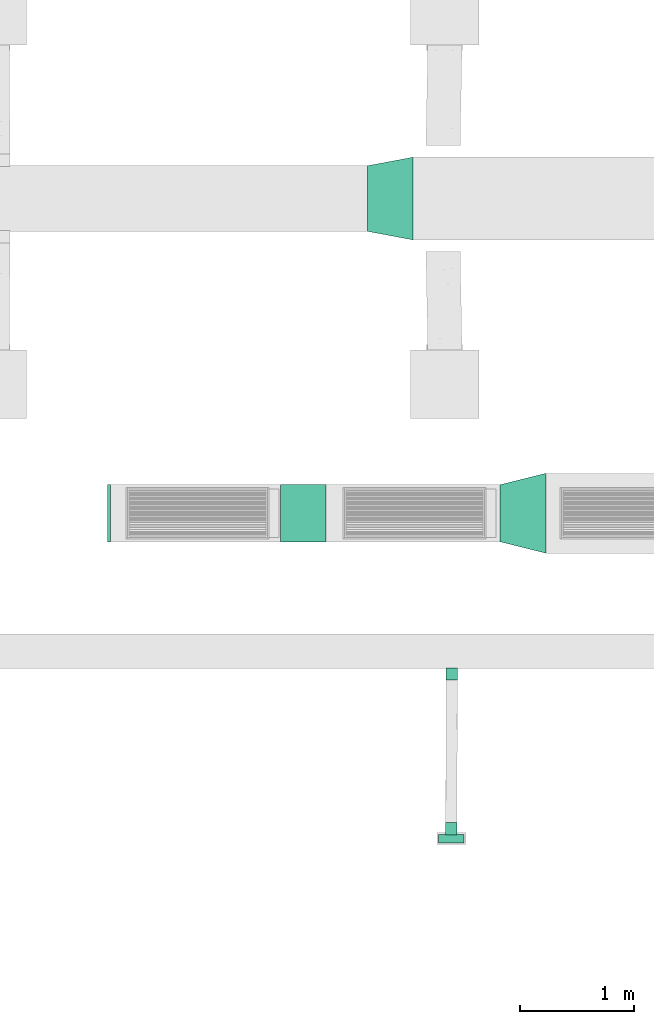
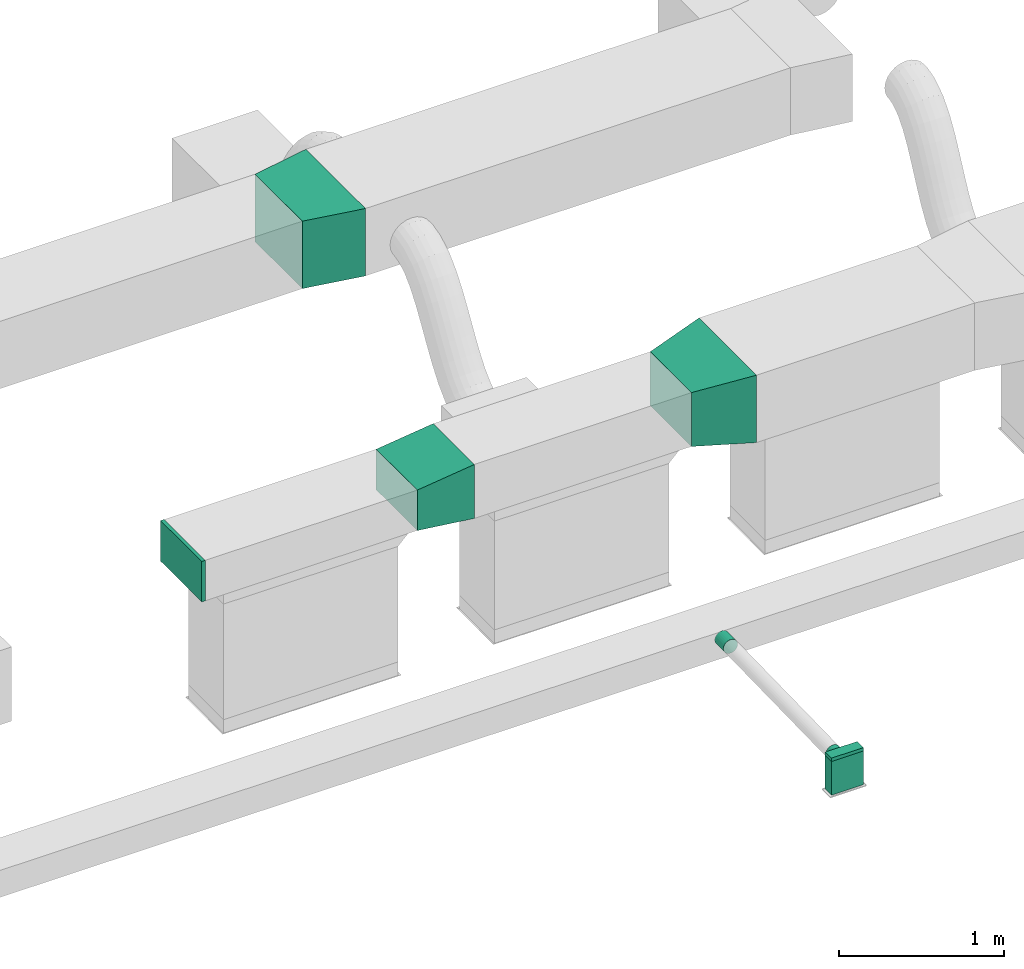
# One storey, part 25 of 60: 7 flow fittings, 1 flow segment.
"""IFC2X3 building model written with IfcOpenShell, lengths in millimetres."""

from ifc_helpers import new_model, entity, si_unit, converted_unit, derived_unit, direction, frame, frame_2d, origin, origin_2d_with_axis, place, context, subcontext, project, spatial, polyline, rectangle, outline, extrude, faceted_brep, source, transform, mapped, material, type_object, type_shapes, element, save


model = new_model("IFC2X3")

# Units and contexts
model_context = context("Model", 3, precision=0.01, world=origin(), true_north=direction((6.123233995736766e-17, 1.0)))
body_context = subcontext(model_context, "Body", "Model", "MODEL_VIEW")
ifc_project = project(units=[si_unit("LENGTHUNIT", "METRE", prefix="MILLI"), converted_unit("PLANEANGLEUNIT", "DEGREE", entity("IfcPlaneAngleMeasure", 0.017453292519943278), si_unit("PLANEANGLEUNIT", "RADIAN"), dimensions=[0, 0, 0, 0, 0, 0, 0]), si_unit("AREAUNIT", "SQUARE_METRE"), derived_unit("THERMALTRANSMITTANCEUNIT", [(si_unit("MASSUNIT", "GRAM", prefix="KILO"), 1), (si_unit("THERMODYNAMICTEMPERATUREUNIT", "KELVIN"), -1), (si_unit("TIMEUNIT", "SECOND"), -3)])], contexts=[model_context])

# Site, building, storey
site_placement = place(None, origin())
site = spatial("IfcSite", under=ifc_project, at=site_placement, Name="Default", CompositionType="ELEMENT")
building_placement = place(site_placement, origin())
building = spatial("IfcBuilding", under=site, at=building_placement, Name="Praça Pedro II, 1301 - Centro (Sul), Teresina - PI, 64001-100", CompositionType="ELEMENT")
storey_placement = place(building_placement, frame((0.0, 0.0, 6040.0)))
storey = spatial("IfcBuildingStorey", under=building, at=storey_placement, Name="2PAV", CompositionType="ELEMENT", Elevation=6040.0)

# Flow segment
duct_segment_type = type_object("IfcDuctSegmentType", Name="Duto retangular:Raios cotovelos / torneiras", PredefinedType="NOTDEFINED")
flow_segment_placement = place(storey_placement, origin())
element("IfcFlowSegment", 1, at=flow_segment_placement, inside=storey, type_object=duct_segment_type, Name="Duto retangular:Raios cotovelos / torneiras", ObjectType="Duto retangular:Raios cotovelos / torneiras", context=body_context, shape_type="SweptSolid", body=[
    extrude(rectangle(XDim=75.00000000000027, YDim=225.00000000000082, at=origin_2d_with_axis()), frame((26571.44901291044, -70259.29347420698, 2500.0), z_axis=(0.0, 0.0, 1.0), x_axis=(0.0, -1.0, 0.0)), (0.0, 0.0, 1.0), 250.00000000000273),
])

# Flow fittings
ifc_material = material(Name="<Unnamed>")
duct_fitting_type_1 = type_object("IfcDuctFittingType", Name="M_Rectangular Transition - L:400 mm (L)", PredefinedType="NOTDEFINED", material=ifc_material)
shared_shape_1 = source(origin(), body_context, "Body", "SweptSolid", [
    extrude(outline(polyline([(-179.85036515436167, -173.64862842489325), (223.26252226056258, -173.64862842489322), (173.64862842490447, 223.26252226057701), (-217.06078553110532, 124.03473458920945), (-179.85036515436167, -173.64862842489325)])), frame((200.0, -250.0, 0.0), z_axis=(0.0, 1.0, 0.0), x_axis=(0.9922778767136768, 0.0, 0.12403473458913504)), (0.0, 0.0, 1.0), 500.00000000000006),
])
type_shapes(duct_fitting_type_1, [shared_shape_1])
flow_fitting_1_placement = place(storey_placement, frame((25075.23542437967, -67411.94163590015, 3500.0)))
element("IfcFlowFitting", 2, at=flow_fitting_1_placement, inside=storey, type_object=duct_fitting_type_1, material=ifc_material, Name="M_Rectangular Transition - L:400 mm (L)", ObjectType="M_Rectangular Transition - L:400 mm (L)", context=body_context, shape_type="MappedRepresentation", body=[
    mapped(shared_shape_1, transform((0.0, 0.0, 0.0), scale=1.0)),
])
duct_fitting_type_2 = type_object("IfcDuctFittingType", Name="M_Rectangular Transition - L:400 mm (L)", PredefinedType="NOTDEFINED", material=ifc_material)
shared_shape_2 = source(origin(), body_context, "Body", "Brep", [
    faceted_brep([(400.0, -350.0, 250.0), (400.0, -350.0, -250.0), (400.0, 350.0, -250.0), (400.0, 350.0, 250.0), (0.0, -250.0, 200.0), (0.0, 250.0, 200.0), (0.0, 250.0, -200.0), (0.0, -250.0, -200.0)], [[[0, 1, 2, 3]], [[4, 5, 6, 7]], [[4, 7, 1, 0]], [[7, 6, 2, 1]], [[6, 5, 3, 2]], [[5, 4, 0, 3]]]),
])
type_shapes(duct_fitting_type_2, [shared_shape_2])
flow_fitting_2_placement = place(storey_placement, frame((26998.218238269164, -67411.94163590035, 3500.0)))
element("IfcFlowFitting", 3, at=flow_fitting_2_placement, inside=storey, type_object=duct_fitting_type_2, material=ifc_material, Name="M_Rectangular Transition - L:400 mm (L)", ObjectType="M_Rectangular Transition - L:400 mm (L)", context=body_context, shape_type="MappedRepresentation", body=[
    mapped(shared_shape_2, transform((0.0, 0.0, 0.0), scale=1.0)),
])
duct_fitting_type_3 = type_object("IfcDuctFittingType", Name="M_Tampa retangular:Padrão", PredefinedType="NOTDEFINED", material=ifc_material)
shared_shape_3 = source(origin(), body_context, "Body", "SweptSolid", [
    extrude(rectangle(XDim=24.999999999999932, YDim=500.00000000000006, at=frame_2d((8.881784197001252e-16, 0.0), x_axis=(1.0, 0.0))), frame((12.500000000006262, 0.0, -150.0)), (0.0, 0.0, 1.0), 300.0),
])
type_shapes(duct_fitting_type_3, [shared_shape_3])
flow_fitting_3_placement = place(storey_placement, frame((23587.73542437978, -67411.94163590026, 3500.0), z_axis=(0.0, 0.0, 1.0), x_axis=(-1.0, 0.0, 0.0)))
element("IfcFlowFitting", 4, at=flow_fitting_3_placement, inside=storey, type_object=duct_fitting_type_3, material=ifc_material, Name="M_Tampa retangular:Padrão", ObjectType="M_Tampa retangular:Padrão", context=body_context, shape_type="MappedRepresentation", body=[
    mapped(shared_shape_3, transform((0.0, 0.0, 0.0), scale=1.0)),
])
duct_fitting_type_4 = type_object("IfcDuctFittingType", Name="M_Rectangular Transition - L:400 mm (L)", PredefinedType="NOTDEFINED", material=ifc_material)
shared_shape_4 = source(origin(), body_context, "Body", "SweptSolid", [
    extrude(outline(polyline([(-263.3790313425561, -319.4334607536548), (143.59148355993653, -319.43346075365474), (249.5573912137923, 245.71804673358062), (-129.7698434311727, 393.1488747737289), (-263.3790313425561, -319.4334607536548)])), frame((200.0, 0.0, -250.0), z_axis=(0.0, 0.0, 1.0), x_axis=(0.9828721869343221, 0.18428853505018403, 0.0)), (0.0, 0.0, 1.0), 500.00000000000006),
])
type_shapes(duct_fitting_type_4, [shared_shape_4])
flow_fitting_4_placement = place(storey_placement, frame((26237.387149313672, -64657.4080354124, 3480.0), z_axis=(0.0, 0.0, 1.0), x_axis=(-1.0, 0.0, 0.0)))
element("IfcFlowFitting", 5, at=flow_fitting_4_placement, inside=storey, type_object=duct_fitting_type_4, material=ifc_material, Name="M_Rectangular Transition - L:400 mm (L)", ObjectType="M_Rectangular Transition - L:400 mm (L)", context=body_context, shape_type="MappedRepresentation", body=[
    mapped(shared_shape_4, transform((0.0, 0.0, 0.0), scale=1.0)),
])
duct_fitting_type_5 = type_object("IfcDuctFittingType", Name="M_Tampa retangular:Padrão", PredefinedType="NOTDEFINED", material=ifc_material)
shared_shape_5 = source(origin(), body_context, "Body", "SweptSolid", [
    extrude(rectangle(XDim=24.999999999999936, YDim=225.00000000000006, at=origin_2d_with_axis()), frame((12.500000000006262, 0.0, -37.50000000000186)), (0.0, 0.0, 1.0), 75.0),
])
type_shapes(duct_fitting_type_5, [shared_shape_5])
flow_fitting_5_placement = place(storey_placement, frame((26571.44901291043, -70259.29347420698, 2750.0), z_axis=(0.0, -1.0, 0.0), x_axis=(0.0, 0.0, 1.0)))
element("IfcFlowFitting", 6, at=flow_fitting_5_placement, inside=storey, type_object=duct_fitting_type_5, material=ifc_material, Name="M_Tampa retangular:Padrão", ObjectType="M_Tampa retangular:Padrão", context=body_context, shape_type="MappedRepresentation", body=[
    mapped(shared_shape_5, transform((0.0, 0.0, 0.0), scale=1.0)),
])
duct_fitting_type_6 = type_object("IfcDuctFittingType", Name="M_Encaixe de duto redondo:Padrão", PredefinedType="NOTDEFINED", material=ifc_material)
shared_shape_6 = source(origin(), body_context, "Body", "Brep", [
    faceted_brep([(101.60000000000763, 50.0, 0.0), (101.60000000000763, 48.296291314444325, 12.940952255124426), (101.60000000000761, 43.301270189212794, 25.0), (101.6000000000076, 35.35533905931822, 35.35533905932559), (101.60000000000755, 25.0, 43.30127018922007), (101.60000000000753, 12.94095225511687, 48.29629131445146), (101.6000000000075, 0.0, 50.0), (101.60000000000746, -12.940952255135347, 48.29629131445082), (101.60000000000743, -25.0, 43.30127018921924), (101.6000000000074, -35.35533905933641, 35.355339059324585), (101.60000000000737, -43.301270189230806, 25.0), (101.60000000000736, -48.296291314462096, 12.940952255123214), (101.60000000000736, -50.0, 0.0), (101.60000000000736, -48.29629131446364, -12.94095225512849), (101.60000000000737, -43.301270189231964, -25.0), (101.6000000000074, -35.35533905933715, -35.35533905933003), (101.60000000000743, -25.0, -43.30127018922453), (101.60000000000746, -12.94095225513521, -48.29629131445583), (101.6000000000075, 0.0, -50.0), (101.60000000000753, 12.9409522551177, -48.29629131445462), (101.60000000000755, 25.0, -43.30127018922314), (101.6000000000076, 35.35533905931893, -35.35533905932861), (101.60000000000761, 43.30127018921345, -25.0), (101.60000000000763, 48.2962913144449, -12.940952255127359), (0.0, 12.940952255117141, 48.29629131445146), (-6.0959999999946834, 12.94095225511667, 48.29629131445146), (-6.095999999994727, 0.0, 50.0), (0.0, 0.0, 50.0), (0.0, 25.0, 43.30127018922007), (-6.0959999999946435, 25.0, 43.30127018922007), (0.0, 35.35533905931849, 35.35533905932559), (-6.095999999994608, 35.35533905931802, 35.35533905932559), (0.0, 48.296291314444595, 12.940952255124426), (-6.095999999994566, 48.296291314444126, 12.940952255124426), (-6.095999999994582, 43.3012701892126, 25.0), (0.0, 43.301270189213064, 25.0), (0.0, 50.0, 0.0), (-6.09599999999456, 50.0, 0.0), (0.0, 43.30127018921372, -25.0), (-6.095999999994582, 43.30127018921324, -25.0), (-6.095999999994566, 48.296291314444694, -12.940952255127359), (0.0, 48.29629131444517, -12.940952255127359), (0.0, 35.3553390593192, -35.35533905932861), (-6.095999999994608, 35.35533905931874, -35.35533905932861), (0.0, 12.940952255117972, -48.29629131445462), (-6.0959999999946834, 12.940952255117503, -48.29629131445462), (-6.0959999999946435, 25.0, -43.30127018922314), (0.0, 25.0, -43.30127018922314), (0.0, 0.0, -50.0), (-6.095999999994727, 0.0, -50.0), (0.0, -12.940952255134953, -48.29629131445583), (-6.09599999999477, -12.940952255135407, -48.29629131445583), (0.0, -25.0, -43.30127018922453), (-6.0959999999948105, -25.0, -43.30127018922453), (0.0, -35.35533905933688, -35.35533905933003), (-6.095999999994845, -35.355339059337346, -35.35533905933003), (0.0, -48.29629131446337, -12.94095225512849), (-6.095999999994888, -48.29629131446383, -12.94095225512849), (-6.095999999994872, -43.30127018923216, -25.0), (0.0, -43.301270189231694, -25.0), (0.0, -50.0, 0.0), (-6.095999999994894, -50.0, 0.0), (0.0, -48.296291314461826, 12.940952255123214), (-6.095999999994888, -48.296291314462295, 12.940952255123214), (0.0, -43.30127018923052, 25.0), (-6.095999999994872, -43.301270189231, 25.0), (0.0, -35.35533905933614, 35.355339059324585), (-6.095999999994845, -35.35533905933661, 35.355339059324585), (0.0, -12.940952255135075, 48.29629131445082), (-6.09599999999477, -12.940952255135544, 48.29629131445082), (-6.0959999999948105, -25.0, 43.30127018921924), (0.0, -25.0, 43.30127018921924)], [[[0, 1, 2, 3, 4, 5, 6, 7, 8, 9, 10, 11, 12, 13, 14, 15, 16, 17, 18, 19, 20, 21, 22, 23]], [[24, 25, 26, 27, 6, 5]], [[28, 29, 25, 24, 5, 4]], [[4, 3, 30, 31, 29, 28]], [[32, 33, 34, 35, 2, 1]], [[36, 37, 33, 32, 1, 0]], [[3, 2, 35, 34, 31, 30]], [[23, 22, 38, 39, 40, 41]], [[0, 23, 41, 40, 37, 36]], [[22, 21, 42, 43, 39, 38]], [[44, 45, 46, 47, 20, 19]], [[48, 49, 45, 44, 19, 18]], [[21, 20, 47, 46, 43, 42]], [[50, 51, 49, 48, 18, 17]], [[52, 53, 51, 50, 17, 16]], [[16, 15, 54, 55, 53, 52]], [[56, 57, 58, 59, 14, 13]], [[60, 61, 57, 56, 13, 12]], [[15, 14, 59, 58, 55, 54]], [[62, 63, 61, 60, 12, 11]], [[64, 65, 63, 62, 11, 10]], [[10, 9, 66, 67, 65, 64]], [[68, 69, 70, 71, 8, 7]], [[27, 26, 69, 68, 7, 6]], [[9, 8, 71, 70, 67, 66]], [[49, 51, 53, 55, 58, 57, 61, 63, 65, 67, 70, 69, 26, 25, 29, 31, 34, 33, 37, 40, 39, 43, 46, 45]]]),
])
type_shapes(duct_fitting_type_6, [shared_shape_6])
for number, where, z_axis, x_axis in (
    (7, (26571.069190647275, -70221.79347420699, 2677.124941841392), (1.0, 0.0, 0.0), (0.0, 1.0, 0.0)),
    (8, (26574.548638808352, -68770.24419274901, 2700.0), (0.0, 0.0, -1.0), (0.0, -1.0, 0.0)),
):
    element("IfcFlowFitting", number, at=place(storey_placement, frame(where, z_axis=z_axis, x_axis=x_axis)), inside=storey, type_object=duct_fitting_type_6, material=ifc_material, Name="M_Encaixe de duto redondo:Padrão", ObjectType="M_Encaixe de duto redondo:Padrão", context=body_context, shape_type="MappedRepresentation", body=[
        mapped(shared_shape_6, transform((0.0, 0.0, 0.0), scale=1.0)),
    ])

save(model, "model.ifc")
